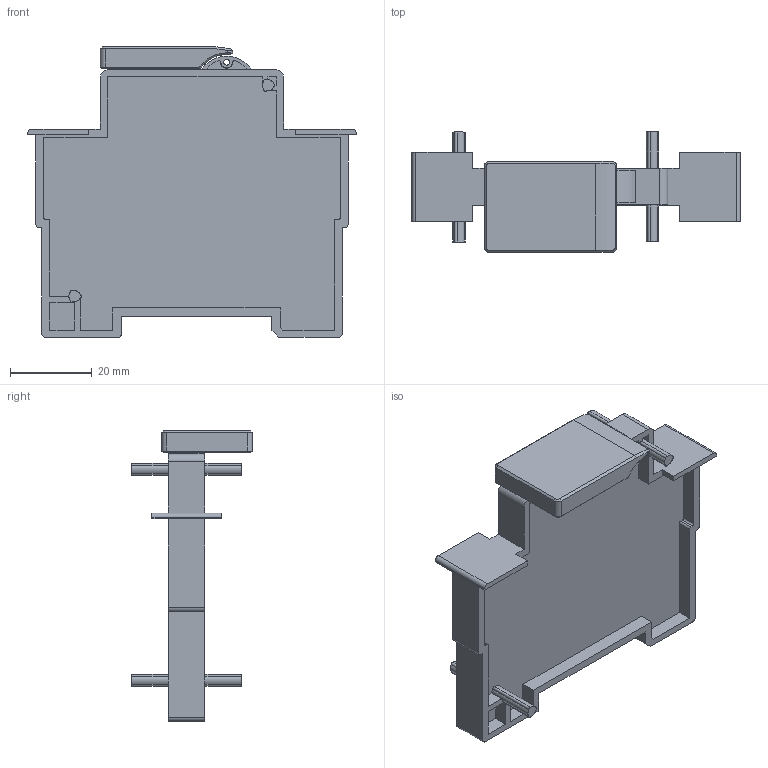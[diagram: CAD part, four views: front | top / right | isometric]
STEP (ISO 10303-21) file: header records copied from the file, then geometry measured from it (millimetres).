
FILE_DESCRIPTION((''),'2;1');
FILE_NAME('47NCHS321_ASM_ASM','2022-07-16T',('Admin'),(''),'PRO/ENGINEER BY PARAMETRIC TECHNOLOGY CORPORATION, 2008380','PRO/ENGINEER BY PARAMETRIC TECHNOLOGY CORPORATION, 2008380','');
FILE_SCHEMA(('CONFIG_CONTROL_DESIGN'));
Length unit declared in the file: millimetre
Products named in the file (6): _MODEL1_12_3_6_2; _MODEL2_1_4_8_1; ASM0002_ASM_2_ASM_1_ASM_3_ASM_1_ASM; MCB33333_ASM_1_ASM_2_ASM_1_ASM; 47HS321_ASM_2_ASM; 47NCHS321_ASM_ASM
Assembly tree (5 placements, depth 5):
  47NCHS321_ASM_ASM
    47HS321_ASM_2_ASM
      MCB33333_ASM_1_ASM_2_ASM_1_ASM
        ASM0002_ASM_2_ASM_1_ASM_3_ASM_1_ASM
          _MODEL1_12_3_6_2
          _MODEL2_1_4_8_1
Bounding box: 80.6 x 29.64 x 71.3 mm (x, y, z)
Volume: 15285.1 mm3; surface area: 17791.1 mm2
Topology: 2 solids, 3 shells, 293 faces, 839 edges, 563 vertices
Faces by surface type: plane 196, cylinder 83, cone 10, bspline 4
Entity records: 9972 total; most frequent: CARTESIAN_POINT 1938, ORIENTED_EDGE 1678, DIRECTION 1659, EDGE_CURVE 839, VECTOR 607, LINE 607, VERTEX_POINT 563, AXIS2_PLACEMENT_3D 526
